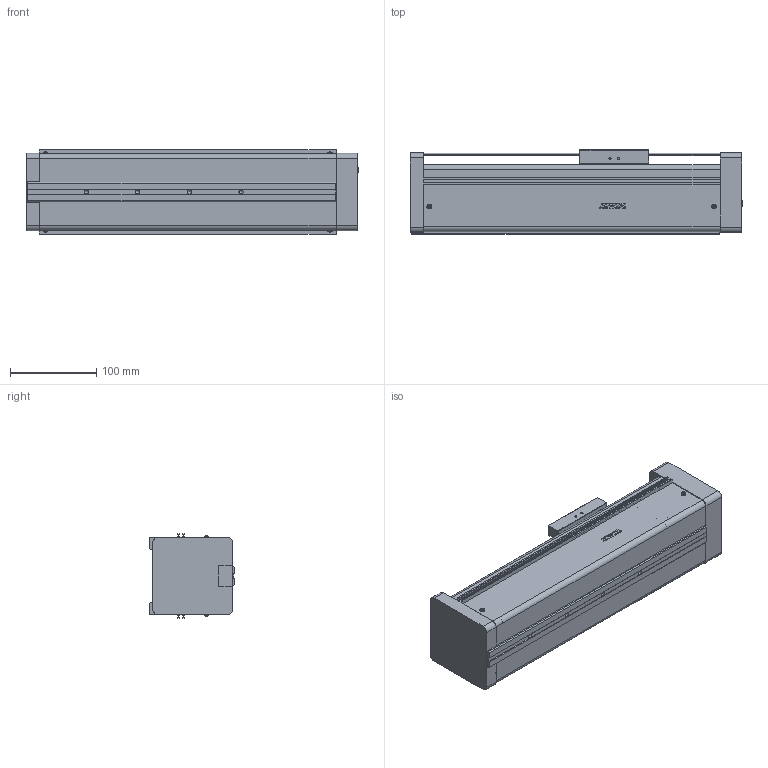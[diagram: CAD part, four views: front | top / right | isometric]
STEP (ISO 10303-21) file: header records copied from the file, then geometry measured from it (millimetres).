
FILE_DESCRIPTION(/* description */ (''),/* implementation_level */ '2;1');
FILE_NAME(/* name */ 'D:\混合母檔20191031\混和母檔\混和母檔\bin\Debug\Download\3D\KE9010C-150AF0\KE9010C-150AF0.stp',/* time_stamp */ '2019-11-04T14:22:03+08:00',/* author */ ('user'),/* organization */ (''),/* preprocessor_version */ 'ST-DEVELOPER v16.13',/* originating_system */ 'Autodesk Inventor 2018',/* authorisation */ '');
FILE_SCHEMA (('AUTOMOTIVE_DESIGN { 1 0 10303 214 3 1 1 }'));
Length unit declared in the file: millimetre
Products named in the file (3): KE9010C-150AF0; KE90-F0-BP; KE90-SL
Assembly tree (2 placements, depth 2):
  KE9010C-150AF0
    KE90-F0-BP
    KE90-SL
Bounding box: 386 x 98 x 98.4 mm (x, y, z)
Volume: 2685907.5 mm3; surface area: 281607.3 mm2
Topology: 3 solids, 22 shells, 869 faces, 2302 edges, 1520 vertices
Faces by surface type: plane 494, bspline 136, cone 114, cylinder 77, torus 40, sphere 8
Full cylindrical faces by diameter (mm): 2.5 x16, 3 x2, 3.3 x4, 4.2 x4, 4.5 x6, 4.917 x4, 5 x9, 8 x7, 46 x1, 50 x1
Entity records: 30448 total; most frequent: CARTESIAN_POINT 9544, ORIENTED_EDGE 4350, DIRECTION 3821, EDGE_CURVE 2175, VERTEX_POINT 1485, AXIS2_PLACEMENT_3D 1288, LINE 1245, VECTOR 1245
